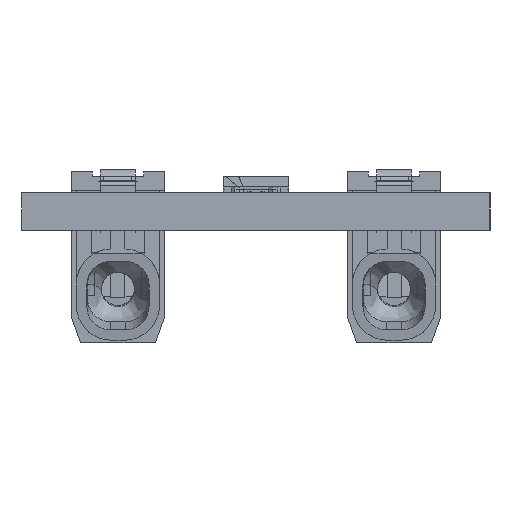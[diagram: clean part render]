
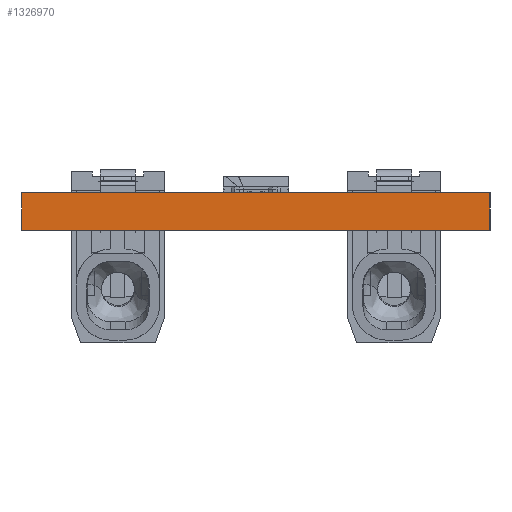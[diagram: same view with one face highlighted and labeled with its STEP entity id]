
A CAD part, left-side view. The second image highlights one B-rep face of the part: STEP entity #1326970.
In plain terms, the highlighted planar face has unit normal (-1, 0, 0).
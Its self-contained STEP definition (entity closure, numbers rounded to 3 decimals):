
#1307720=CARTESIAN_POINT('',(63.848,50.036,0.));
#1307730=DIRECTION('',(0.,1.,0.));
#1307740=VECTOR('',#1307730,0.039);
#1307750=LINE('',#1307720,#1307740);
#1307760=CARTESIAN_POINT('',(63.848,50.036,0.));
#1307770=VERTEX_POINT('',#1307760);
#1307780=CARTESIAN_POINT('',(63.848,70.036,0.));
#1307790=VERTEX_POINT('',#1307780);
#1307800=EDGE_CURVE('',#1307770,#1307790,#1307750,.T.);
#1314110=CARTESIAN_POINT('',(63.848,50.036,-1.6));
#1314120=VERTEX_POINT('',#1314110);
#1316250=CARTESIAN_POINT('',(63.848,70.036,-1.6));
#1316260=VERTEX_POINT('',#1316250);
#1316290=CARTESIAN_POINT('',(63.848,50.036,-1.6));
#1316300=DIRECTION('',(0.,1.,0.));
#1316310=VECTOR('',#1316300,0.039);
#1316320=LINE('',#1316290,#1316310);
#1316330=EDGE_CURVE('',#1314120,#1316260,#1316320,.T.);
#1320460=CARTESIAN_POINT('',(63.848,50.036,0.));
#1320470=DIRECTION('',(0.,0.,-1.));
#1320480=VECTOR('',#1320470,1.);
#1320490=LINE('',#1320460,#1320480);
#1320500=EDGE_CURVE('',#1307770,#1314120,#1320490,.T.);
#1326680=CARTESIAN_POINT('',(63.848,70.036,0.));
#1326690=DIRECTION('',(0.,0.,-1.));
#1326700=VECTOR('',#1326690,1.);
#1326710=LINE('',#1326680,#1326700);
#1326720=EDGE_CURVE('',#1307790,#1316260,#1326710,.T.);
#1326860=CARTESIAN_POINT('',(63.848,50.036,0.));
#1326870=DIRECTION('',(1.,0.,0.));
#1326880=DIRECTION('',(0.,-1.,0.));
#1326890=AXIS2_PLACEMENT_3D('',#1326860,#1326870,#1326880);
#1326900=PLANE('',#1326890);
#1326910=ORIENTED_EDGE('',*,*,#1307800,.T.);
#1326920=ORIENTED_EDGE('',*,*,#1320500,.F.);
#1326930=ORIENTED_EDGE('',*,*,#1316330,.F.);
#1326940=ORIENTED_EDGE('',*,*,#1326720,.T.);
#1326950=EDGE_LOOP('',(#1326940,#1326930,#1326920,#1326910));
#1326960=FACE_OUTER_BOUND('',#1326950,.T.);
#1326970=ADVANCED_FACE('',(#1326960),#1326900,.F.);
